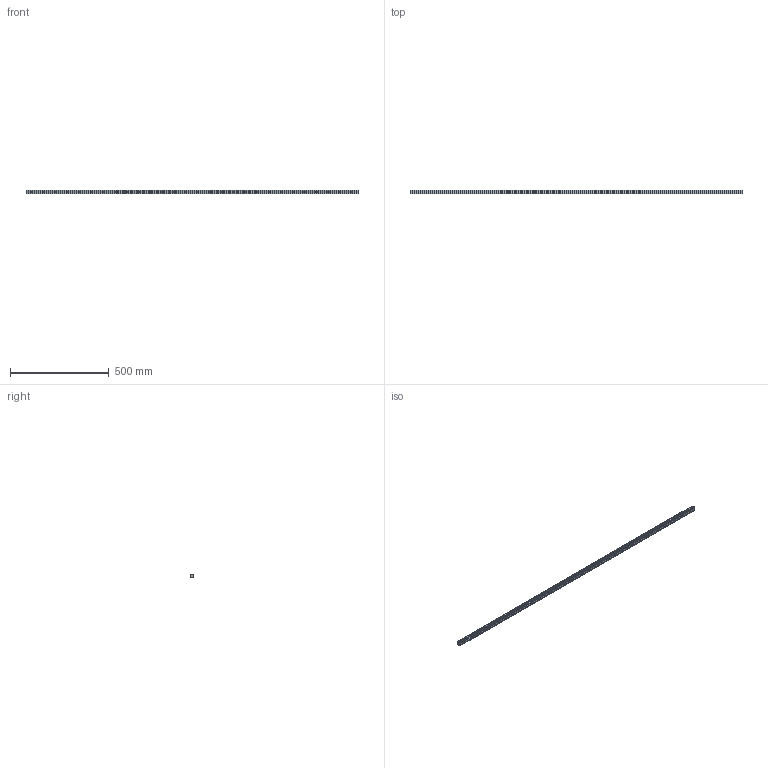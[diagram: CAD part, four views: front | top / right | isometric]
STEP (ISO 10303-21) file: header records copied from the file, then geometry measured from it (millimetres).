
FILE_DESCRIPTION (( 'STEP AP203' ), '1' );
FILE_NAME ('L1018.20R-1680.step', '2023-08-06T09:09:31', ( '' ), ( '' ), 'SwSTEP 2.0', 'SolidWorks 2019', '' );
FILE_SCHEMA (( 'CONFIG_CONTROL_DESIGN' ));
Length unit declared in the file: millimetre
Products named in the file (1): L1018.20R-1680
Bounding box: 1680 x 19.3 x 20 mm (x, y, z)
Volume: 532775.5 mm3; surface area: 142426.2 mm2
Topology: 1 solids, 1 shells, 281 faces, 641 edges, 362 vertices
Faces by surface type: cylinder 115, cone 112, plane 54
Entity records: 7550 total; most frequent: DIRECTION 1435, CARTESIAN_POINT 1229, ORIENTED_EDGE 1170, EDGE_CURVE 585, AXIS2_PLACEMENT_3D 568, VERTEX_POINT 362, EDGE_LOOP 337, LINE 299
